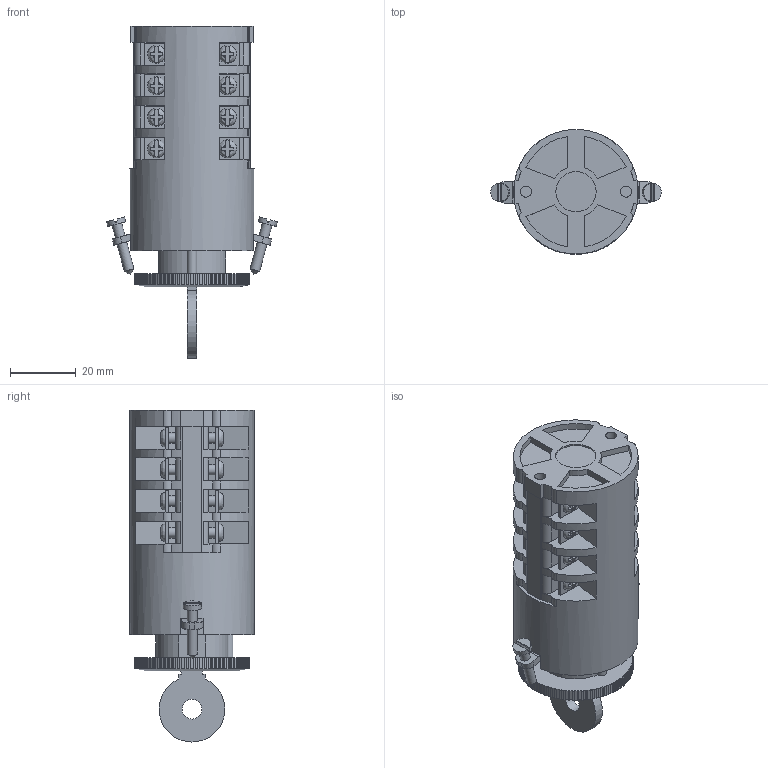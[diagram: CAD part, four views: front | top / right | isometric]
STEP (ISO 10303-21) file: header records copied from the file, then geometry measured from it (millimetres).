
FILE_DESCRIPTION(/* description */ (''),/* implementation_level */ '2;1');
FILE_NAME(/* name */ '4G10-U_wykonanie_S10_4_korpusy.stp',/* time_stamp */ '2021-07-21T08:19:14+02:00',/* author */ (''),/* organization */ (''),/* preprocessor_version */ 'ST-DEVELOPER v18.1',/* originating_system */ 'SIEMENS PLM Software NX 1965',/* authorisation */ '');
FILE_SCHEMA (('AUTOMOTIVE_DESIGN { 1 0 10303 214 3 1 1 1 }'));
Length unit declared in the file: millimetre
Products named in the file (1): 4G10-U_wykonanie_S10_4_korpusy_stp
Bounding box: 51.98 x 38 x 101.08 mm (x, y, z)
Volume: 73778 mm3; surface area: 21358.8 mm2
Topology: 1 solids, 3 shells, 927 faces, 2629 edges, 1756 vertices
Faces by surface type: plane 725, cylinder 180, bspline 16, cone 4, torus 2
Full cylindrical faces by diameter (mm): 3 x4, 3.2 x16, 3.4 x4, 5.5 x2, 5.6 x2, 6 x1, 12.3 x1, 15.8 x1, 16.1 x1, 38 x1
Entity records: 29972 total; most frequent: CARTESIAN_POINT 6342, ORIENTED_EDGE 5054, DIRECTION 4674, EDGE_CURVE 2527, VERTEX_POINT 1711, LINE 1708, VECTOR 1708, AXIS2_PLACEMENT_3D 1483
